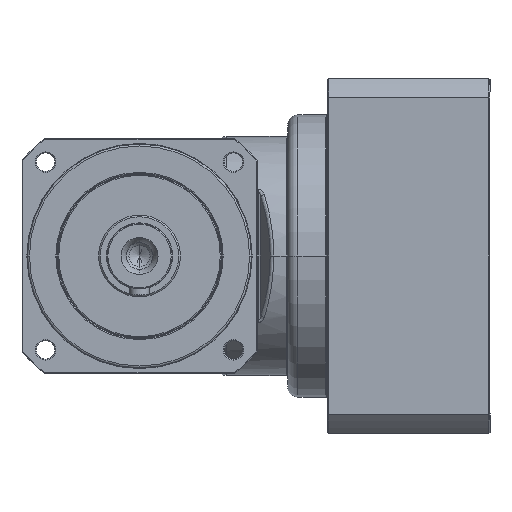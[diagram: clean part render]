
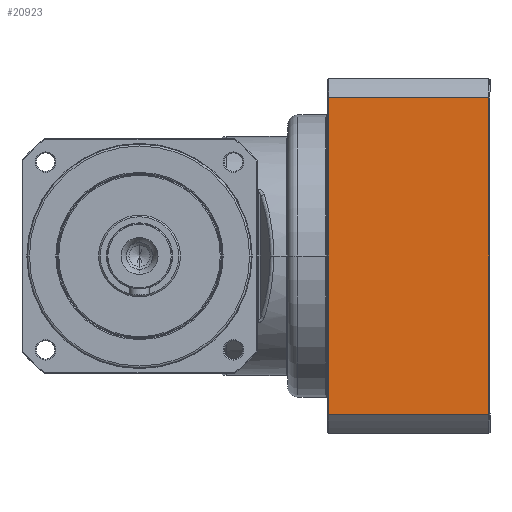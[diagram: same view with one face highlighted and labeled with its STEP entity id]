
A CAD part, left-side view. The second image highlights one B-rep face of the part: STEP entity #20923.
In plain terms, the highlighted planar face has unit normal (-1, 0, 0) as drawn and (0, -1, 0) by its records, which use the part's own axes.
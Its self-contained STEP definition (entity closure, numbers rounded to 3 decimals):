
#19779=DIRECTION('',(1.,0.,0.));
#19780=VECTOR('',#19779,154.961);
#19781=CARTESIAN_POINT('',(-77.481,-87.,
3.));
#19782=LINE('',#19781,#19780);
#19783=DIRECTION('',(0.,0.,1.));
#19784=VECTOR('',#19783,78.5);
#19785=CARTESIAN_POINT('',(-77.481,-87.,
3.));
#19786=LINE('',#19785,#19784);
#19787=DIRECTION('',(1.,0.,0.));
#19788=VECTOR('',#19787,154.961);
#19789=CARTESIAN_POINT('',(-77.481,-87.,
81.5));
#19790=LINE('',#19789,#19788);
#19791=DIRECTION('',(0.,0.,1.));
#19792=VECTOR('',#19791,78.5);
#19793=CARTESIAN_POINT('',(77.481,-87.,
3.));
#19794=LINE('',#19793,#19792);
#20488=CARTESIAN_POINT('',(-77.481,-87.,
81.5));
#20489=CARTESIAN_POINT('',(77.481,-87.,
81.5));
#20490=VERTEX_POINT('',#20488);
#20491=VERTEX_POINT('',#20489);
#20525=CARTESIAN_POINT('',(-77.481,-87.,3.));
#20527=VERTEX_POINT('',#20525);
#20530=CARTESIAN_POINT('',(77.481,-87.,
3.));
#20531=VERTEX_POINT('',#20530);
#20909=CARTESIAN_POINT('',(-87.,-87.,0.));
#20910=DIRECTION('',(0.,-1.,0.));
#20911=DIRECTION('',(1.,0.,0.));
#20912=AXIS2_PLACEMENT_3D('',#20909,#20910,#20911);
#20913=PLANE('',#20912);
#20914=ORIENTED_EDGE('',*,*,#20903,.F.);
#20916=ORIENTED_EDGE('',*,*,#20915,.T.);
#20918=ORIENTED_EDGE('',*,*,#20917,.T.);
#20920=ORIENTED_EDGE('',*,*,#20919,.F.);
#20921=EDGE_LOOP('',(#20914,#20916,#20918,#20920));
#20922=FACE_OUTER_BOUND('',#20921,.F.);
#20923=ADVANCED_FACE('',(#20922),#20913,.T.);
#20903=EDGE_CURVE('',#20527,#20531,#19782,.T.);
#20915=EDGE_CURVE('',#20527,#20490,#19786,.T.);
#20917=EDGE_CURVE('',#20490,#20491,#19790,.T.);
#20919=EDGE_CURVE('',#20531,#20491,#19794,.T.);
